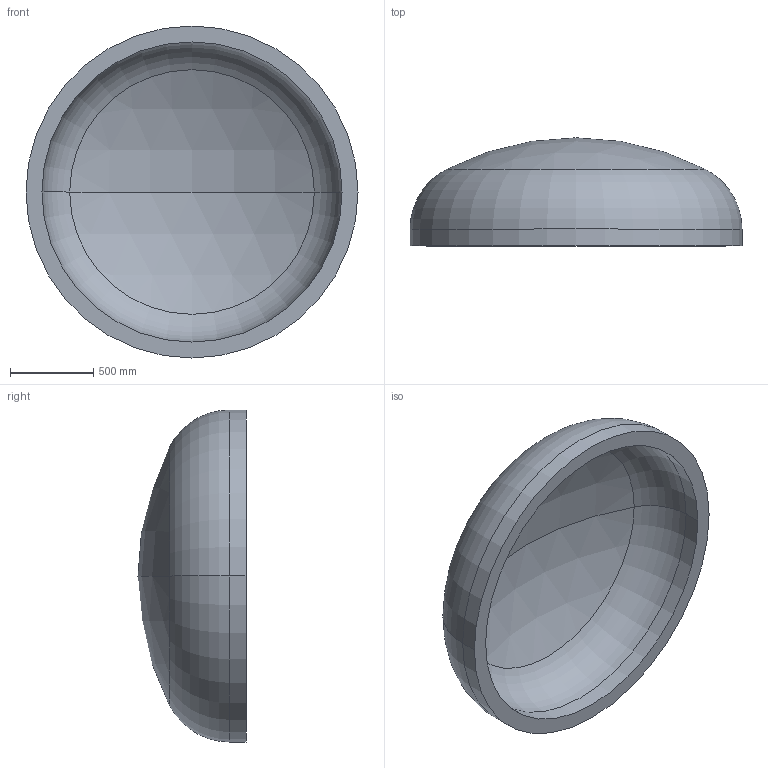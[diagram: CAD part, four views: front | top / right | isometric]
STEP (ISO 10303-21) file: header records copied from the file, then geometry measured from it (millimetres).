
FILE_DESCRIPTION (( 'STEP AP203' ), '1' );
FILE_NAME ('DIN 28013 Korbbogenform_-_Boden DIN 28013 - 2000 x 100 - I - s=96.step', '2016-07-01T14:08:31', ( '' ), ( '' ), 'SwSTEP 2.0', 'SolidWorks 2013', '' );
FILE_SCHEMA (( 'CONFIG_CONTROL_DESIGN' ));
Length unit declared in the file: millimetre
Products named in the file (1): DIN 28013 Korbbogenform_-_Boden DIN 28013 - 2000 x 100 - I - s=96
Bounding box: 2000 x 650.9 x 2000 mm (x, y, z)
Volume: 450620407.2 mm3; surface area: 9981457.4 mm2
Topology: 1 solids, 1 shells, 13 faces, 24 edges, 14 vertices
Faces by surface type: torus 4, cylinder 4, sphere 4, plane 1
Entity records: 407 total; most frequent: DIRECTION 72, CARTESIAN_POINT 52, ORIENTED_EDGE 48, AXIS2_PLACEMENT_3D 34, EDGE_CURVE 24, CIRCLE 20, EDGE_LOOP 14, VERTEX_POINT 14
